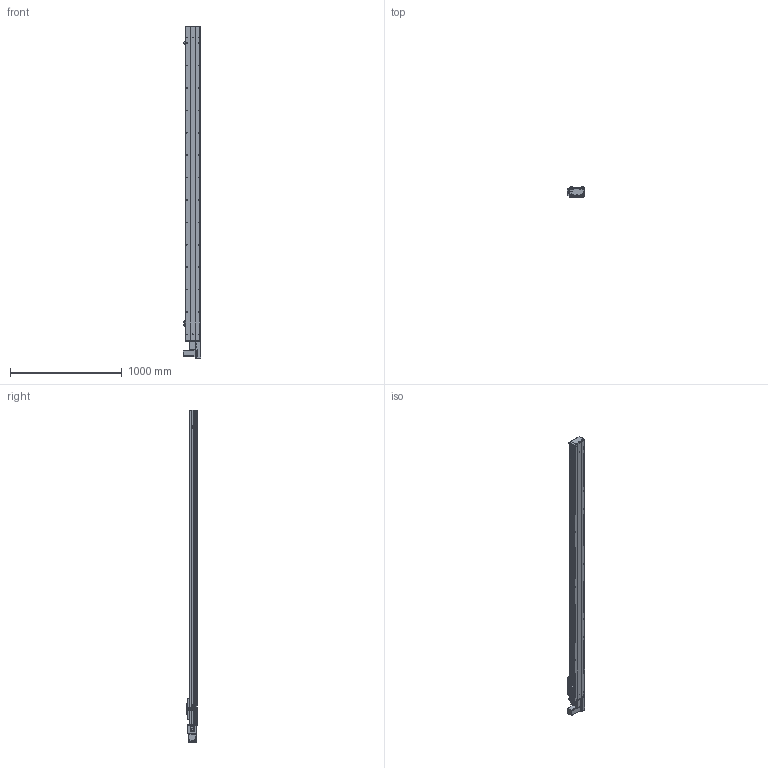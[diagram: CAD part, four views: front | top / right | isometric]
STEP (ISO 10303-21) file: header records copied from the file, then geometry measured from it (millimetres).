
FILE_DESCRIPTION (( 'STEP AP203' ), '1' );
FILE_NAME ('Y135CB-D90-S2500-BL-P400W.STEP', '2020-02-18T01:39:41', ( '微软用户' ), ( '微软中国' ), 'SwSTEP 2.0', 'SolidWorks 2017', '' );
FILE_SCHEMA (( 'CONFIG_CONTROL_DESIGN' ));
Length unit declared in the file: millimetre
Products named in the file (18): Y100-135俋离換覜ん--; Y10B-耜蚾蟀諉啣----; Y135C-陔俋离換覜結え-; Y俋欶BR----; 5C--俋欶; 0B-埴倛裔啣; C-雄赽釱--; 0B-源倛裔啣; Y135CB-D90-S2500-BL-P400W; 0B-萇儂楊擘啣; Y135CB-耜裔; san松下电机400不带刹车----; 135CB---遴掛极.-; 5CB --掛极耜裔啣-; 35CB---喘謫眊楊擘啣; 135CB--詩湍-CE; C-詩湍揤踡え-陔; Y10B--々湍喘謫眊--666
Assembly tree (21 placements, depth 2):
  Y135CB-D90-S2500-BL-P400W
    Y135CB-耜裔
    135CB---遴掛极.-
    35CB---喘謫眊楊擘啣
    Y10B--々湍喘謫眊--666
    Y10B-耜蚾蟀諉啣----
    Y俋欶BR----
    0B-埴倛裔啣
    0B-源倛裔啣
    0B-萇儂楊擘啣
    san松下电机400不带刹车----
    5CB --掛极耜裔啣-  x2
    C-詩湍揤踡え-陔  x2
    135CB--詩湍-CE
    Y100-135俋离換覜ん--  x3
    Y135C-陔俋离換覜結え-
    5C--俋欶
    C-雄赽釱--
Bounding box: 157.5 x 91 x 2964.5 mm (x, y, z)
Volume: 8282555.3 mm3; surface area: 3281160.7 mm2
Topology: 21 solids, 21 shells, 977 faces, 2671 edges, 1770 vertices
Faces by surface type: cylinder 503, plane 458, cone 16
Entity records: 30957 total; most frequent: CARTESIAN_POINT 5164, DIRECTION 5143, ORIENTED_EDGE 4818, EDGE_CURVE 2409, AXIS2_PLACEMENT_3D 1885, VERTEX_POINT 1598, VECTOR 1373, LINE 1373
